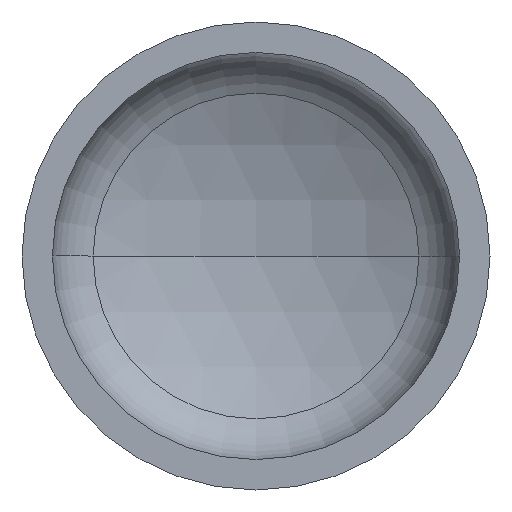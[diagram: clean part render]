
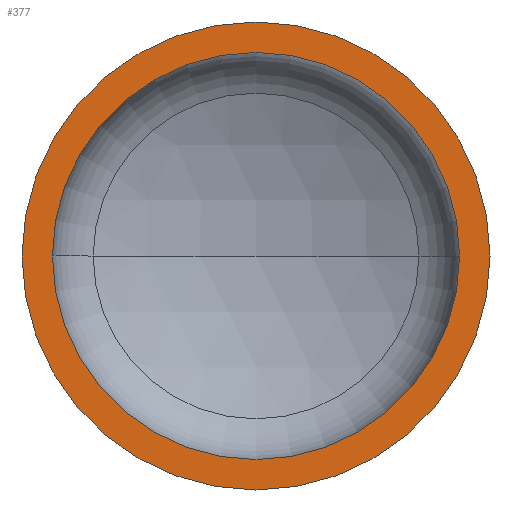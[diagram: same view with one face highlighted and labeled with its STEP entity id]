
A CAD part, front view. The second image highlights one B-rep face of the part: STEP entity #377.
In plain terms, the highlighted planar face has unit normal (0, -1, 0).
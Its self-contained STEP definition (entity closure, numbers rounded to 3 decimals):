
#1 = AXIS2_PLACEMENT_3D ( 'NONE', #70, #216, #408 ) ;
#17 = AXIS2_PLACEMENT_3D ( 'NONE', #45, #134, #138 ) ;
#25 = CARTESIAN_POINT ( 'NONE',  ( 600., 0., 0. ) ) ;
#34 = AXIS2_PLACEMENT_3D ( 'NONE', #289, #286, #305 ) ;
#38 = AXIS2_PLACEMENT_3D ( 'NONE', #312, #147, #168 ) ;
#45 = CARTESIAN_POINT ( 'NONE',  ( 0., 0., 0. ) ) ;
#49 = EDGE_CURVE ( 'NONE', #299, #191, #68, .T. ) ;
#58 = EDGE_CURVE ( 'NONE', #357, #407, #363, .T. ) ;
#60 = DIRECTION ( 'NONE',  ( 1., 0., 0. ) ) ;
#65 = PLANE ( 'NONE',  #1 ) ;
#68 = CIRCLE ( 'NONE', #38, 600. ) ;
#70 = CARTESIAN_POINT ( 'NONE',  ( -600., 0., 0. ) ) ;
#78 = ORIENTED_EDGE ( 'NONE', *, *, #58, .F. ) ;
#94 = CARTESIAN_POINT ( 'NONE',  ( 522., 0., 0. ) ) ;
#133 = CARTESIAN_POINT ( 'NONE',  ( -600., 0., 0. ) ) ;
#134 = DIRECTION ( 'NONE',  ( 0., -1., 0. ) ) ;
#138 = DIRECTION ( 'NONE',  ( 1., 0., 0. ) ) ;
#147 = DIRECTION ( 'NONE',  ( 0., -1., 0. ) ) ;
#151 = ORIENTED_EDGE ( 'NONE', *, *, #320, .T. ) ;
#152 = CARTESIAN_POINT ( 'NONE',  ( 0., 0., 0. ) ) ;
#168 = DIRECTION ( 'NONE',  ( 1., 0., 0. ) ) ;
#189 = ORIENTED_EDGE ( 'NONE', *, *, #49, .T. ) ;
#191 = VERTEX_POINT ( 'NONE', #25 ) ;
#213 = CIRCLE ( 'NONE', #288, 522. ) ;
#216 = DIRECTION ( 'NONE',  ( 0., 1., 0. ) ) ;
#244 = EDGE_LOOP ( 'NONE', ( #151, #189 ) ) ;
#269 = CARTESIAN_POINT ( 'NONE',  ( -522., 0., 0. ) ) ;
#272 = ORIENTED_EDGE ( 'NONE', *, *, #395, .F. ) ;
#286 = DIRECTION ( 'NONE',  ( 0., -1., 0. ) ) ;
#288 = AXIS2_PLACEMENT_3D ( 'NONE', #152, #360, #60 ) ;
#289 = CARTESIAN_POINT ( 'NONE',  ( 0., 0., 0. ) ) ;
#293 = FACE_BOUND ( 'NONE', #367, .T. ) ;
#299 = VERTEX_POINT ( 'NONE', #133 ) ;
#305 = DIRECTION ( 'NONE',  ( 1., 0., 0. ) ) ;
#306 = FACE_OUTER_BOUND ( 'NONE', #244, .T. ) ;
#312 = CARTESIAN_POINT ( 'NONE',  ( 0., 0., 0. ) ) ;
#313 = CIRCLE ( 'NONE', #17, 600. ) ;
#320 = EDGE_CURVE ( 'NONE', #191, #299, #313, .T. ) ;
#357 = VERTEX_POINT ( 'NONE', #94 ) ;
#360 = DIRECTION ( 'NONE',  ( 0., -1., 0. ) ) ;
#363 = CIRCLE ( 'NONE', #34, 522. ) ;
#367 = EDGE_LOOP ( 'NONE', ( #78, #272 ) ) ;
#377 = ADVANCED_FACE ( 'NONE', ( #293, #306 ), #65, .F. ) ;
#395 = EDGE_CURVE ( 'NONE', #407, #357, #213, .T. ) ;
#407 = VERTEX_POINT ( 'NONE', #269 ) ;
#408 = DIRECTION ( 'NONE',  ( -1., 0., 0. ) ) ;
